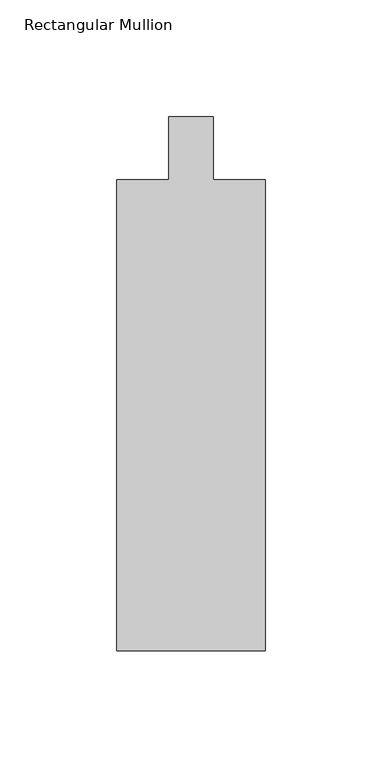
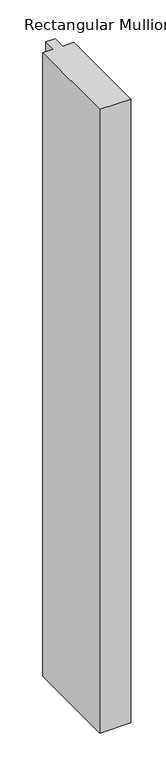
"""IFC4 building model written with IfcOpenShell, lengths in millimetres: member geometry."""

from ifc_helpers import new_model, si_unit, frame, origin, place, context, project, spatial, polyline, outline, extrude, source, transform, mapped, element, save


def rectangular_mullion_090d5db9(model_context):
    return source(origin(), model_context, "Body", "SweptSolid", [
        extrude(outline(polyline([(0.0, -228.6), (-63.5, -228.6), (-63.5, -26.9875), (-41.275, -26.9875), (-41.275, 0.0), (-22.225, 0.0), (-22.225, -26.9875), (0.0, -26.9875), (0.0, -228.6)])), frame((0.0, 0.0, -1345.3533333), z_axis=(0.0, 0.0, 1.0), x_axis=(1.0, 0.0, 0.0)), (0.0, 0.0, 1.0), 1345.3533333),
    ])


if __name__ == "__main__":
    model = new_model("IFC4")
    model_context = context("Model", 3, world=origin())
    ifc_project = project(units=[si_unit("LENGTHUNIT", "METRE", prefix="MILLI")], contexts=[model_context])
    site = spatial("IfcSite", under=ifc_project)
    building = spatial("IfcBuilding", under=site)
    placement = place(None, origin())
    rectangular_mullion_shape = rectangular_mullion_090d5db9(model_context)
    element("IfcMember", 1, ObjectType="Rectangular Mullion : 2 1/2\" x 8\" - Capless", at=placement, inside=building, context=model_context, shape_type="MappedRepresentation", body=[
        mapped(rectangular_mullion_shape, transform((0.0, 0.0, 0.0), x_axis=(1.0, 0.0, 0.0), y_axis=(0.0, 1.0, 0.0), z_axis=(0.0, 0.0, 1.0))),
    ])
    save(model, "model.ifc")
